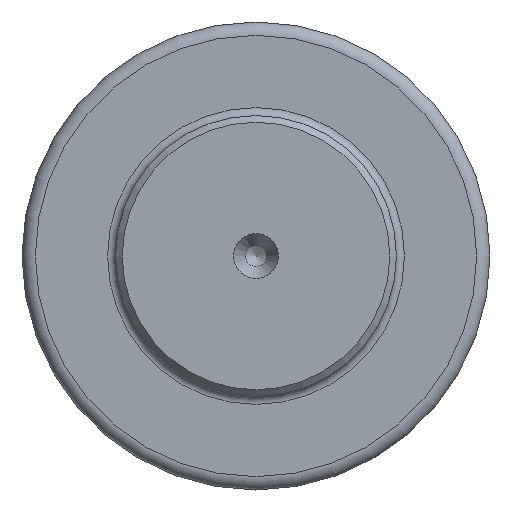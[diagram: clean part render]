
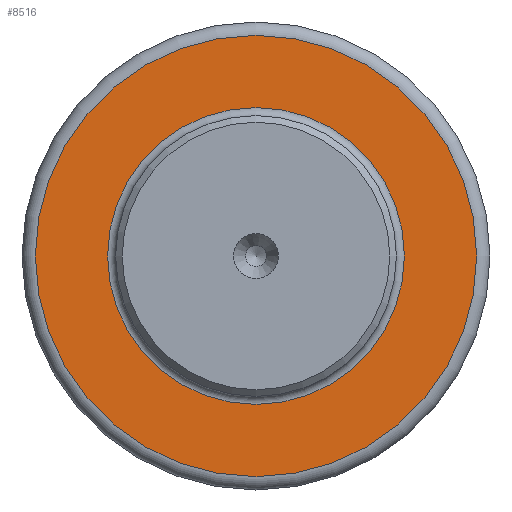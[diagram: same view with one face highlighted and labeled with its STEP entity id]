
A CAD part, left-side view. The second image highlights one B-rep face of the part: STEP entity #8516.
In plain terms, the highlighted planar face has unit normal (-1, 0, 0).
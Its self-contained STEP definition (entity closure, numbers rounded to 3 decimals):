
#240=PLANE('',#9681);
#275=FACE_BOUND('',#1237,.T.);
#742=FACE_OUTER_BOUND('',#1236,.T.);
#1236=EDGE_LOOP('',(#7664));
#1237=EDGE_LOOP('',(#7665));
#2351=CIRCLE('',#9680,33.);
#2352=CIRCLE('',#9682,22.2);
#3746=VERTEX_POINT('',#16782);
#3747=VERTEX_POINT('',#16785);
#5101=EDGE_CURVE('',#3746,#3746,#2351,.T.);
#5102=EDGE_CURVE('',#3747,#3747,#2352,.T.);
#7664=ORIENTED_EDGE('',*,*,#5101,.T.);
#7665=ORIENTED_EDGE('',*,*,#5102,.F.);
#8516=ADVANCED_FACE('',(#742,#275),#240,.T.);
#9680=AXIS2_PLACEMENT_3D('',#16783,#12197,#12198);
#9681=AXIS2_PLACEMENT_3D('',#16784,#12199,#12200);
#9682=AXIS2_PLACEMENT_3D('',#16786,#12201,#12202);
#12197=DIRECTION('center_axis',(-1.,0.,0.));
#12198=DIRECTION('ref_axis',(0.,-1.,0.));
#12199=DIRECTION('center_axis',(-1.,0.,0.));
#12200=DIRECTION('ref_axis',(0.,0.,1.));
#12201=DIRECTION('center_axis',(-1.,0.,0.));
#12202=DIRECTION('ref_axis',(0.,-1.,0.));
#16782=CARTESIAN_POINT('',(64.17,10.748,0.));
#16783=CARTESIAN_POINT('Origin',(64.17,43.748,0.));
#16784=CARTESIAN_POINT('Origin',(64.17,16.148,0.));
#16785=CARTESIAN_POINT('',(64.17,21.548,0.));
#16786=CARTESIAN_POINT('Origin',(64.17,43.748,0.));
